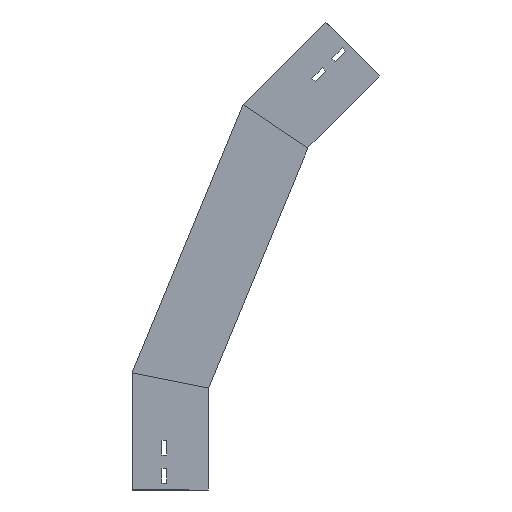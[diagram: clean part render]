
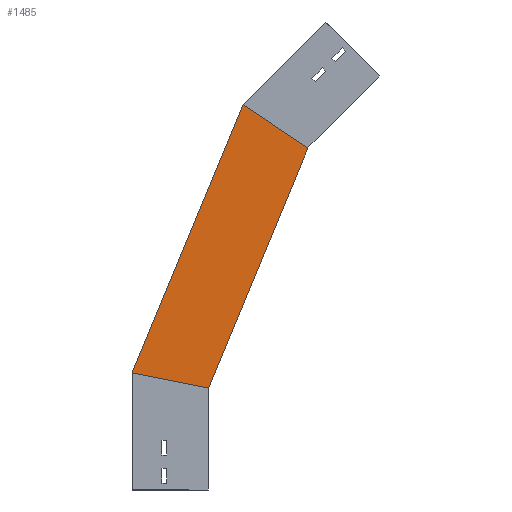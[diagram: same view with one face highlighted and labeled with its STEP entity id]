
A CAD part, left-side view. The second image highlights one B-rep face of the part: STEP entity #1485.
In plain terms, the highlighted planar face has unit normal (-1, 0, 0) as drawn and (1, 0, 0) by its records, which use the part's own axes.
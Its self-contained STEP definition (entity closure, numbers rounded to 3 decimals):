
#67 = CARTESIAN_POINT ( 'NONE',  ( 0., -51.195, 567.572 ) ) ;
#86 = EDGE_CURVE ( 'NONE', #903, #1141, #915, .T. ) ;
#145 = VERTEX_POINT ( 'NONE', #842 ) ;
#228 = LINE ( 'NONE', #715, #937 ) ;
#233 = ORIENTED_EDGE ( 'NONE', *, *, #683, .F. ) ;
#261 = ORIENTED_EDGE ( 'NONE', *, *, #430, .T. ) ;
#308 = CARTESIAN_POINT ( 'NONE',  ( 0., 9.458, 127.166 ) ) ;
#323 = DIRECTION ( 'NONE',  ( 0., 0., -1. ) ) ;
#328 = VERTEX_POINT ( 'NONE', #67 ) ;
#332 = PLANE ( 'NONE',  #778 ) ;
#410 = VECTOR ( 'NONE', #1159, 1000. ) ;
#411 = CARTESIAN_POINT ( 'NONE',  ( 0., 0., 150. ) ) ;
#414 = EDGE_CURVE ( 'NONE', #903, #328, #228, .T. ) ;
#423 = DIRECTION ( 'NONE',  ( 1., 0., 0. ) ) ;
#430 = EDGE_CURVE ( 'NONE', #328, #145, #805, .T. ) ;
#460 = CARTESIAN_POINT ( 'NONE',  ( 0., 112.5, 172.378 ) ) ;
#668 = LINE ( 'NONE', #308, #1444 ) ;
#683 = EDGE_CURVE ( 'NONE', #1141, #145, #668, .T. ) ;
#700 = CARTESIAN_POINT ( 'NONE',  ( 0., -212.704, 459.655 ) ) ;
#715 = CARTESIAN_POINT ( 'NONE',  ( 0., 113.395, 170.218 ) ) ;
#749 = ORIENTED_EDGE ( 'NONE', *, *, #414, .T. ) ;
#778 = AXIS2_PLACEMENT_3D ( 'NONE', #1462, #423, #323 ) ;
#805 = LINE ( 'NONE', #700, #410 ) ;
#813 = ORIENTED_EDGE ( 'NONE', *, *, #86, .F. ) ;
#842 = CARTESIAN_POINT ( 'NONE',  ( 0., -146.568, 503.846 ) ) ;
#903 = VERTEX_POINT ( 'NONE', #460 ) ;
#915 = LINE ( 'NONE', #1386, #1279 ) ;
#937 = VECTOR ( 'NONE', #1491, 1000. ) ;
#1013 = DIRECTION ( 'NONE',  ( 0., -0.383, 0.924 ) ) ;
#1141 = VERTEX_POINT ( 'NONE', #411 ) ;
#1154 = DIRECTION ( 'NONE',  ( 0., -0.981, -0.195 ) ) ;
#1159 = DIRECTION ( 'NONE',  ( 0., -0.831, -0.556 ) ) ;
#1261 = EDGE_LOOP ( 'NONE', ( #749, #261, #233, #813 ) ) ;
#1279 = VECTOR ( 'NONE', #1154, 1000. ) ;
#1371 = FACE_OUTER_BOUND ( 'NONE', #1261, .T. ) ;
#1386 = CARTESIAN_POINT ( 'NONE',  ( 0., -28.701, 144.291 ) ) ;
#1444 = VECTOR ( 'NONE', #1013, 1000. ) ;
#1462 = CARTESIAN_POINT ( 'NONE',  ( 0., 9.458, 127.166 ) ) ;
#1485 = ADVANCED_FACE ( 'NONE', ( #1371 ), #332, .T. ) ;
#1491 = DIRECTION ( 'NONE',  ( 0., -0.383, 0.924 ) ) ;
